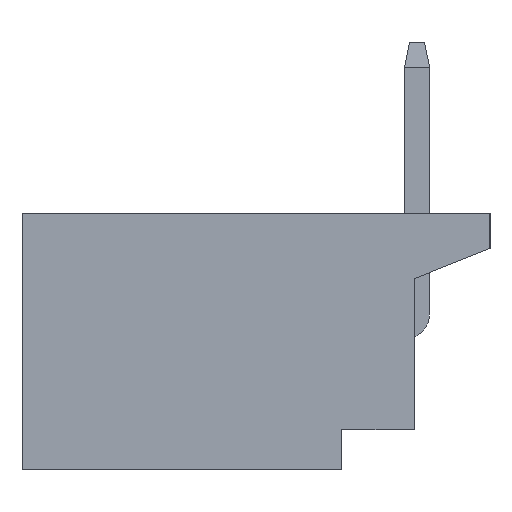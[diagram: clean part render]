
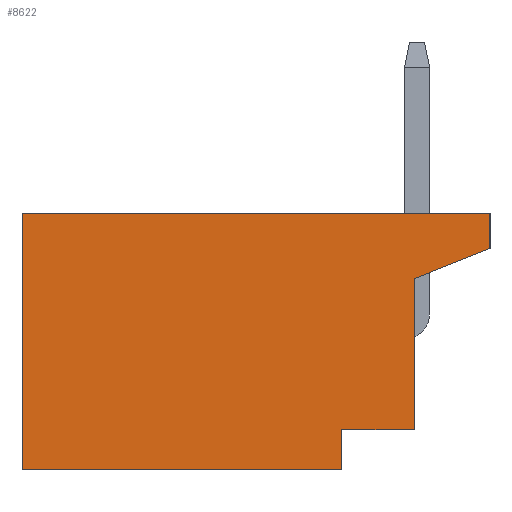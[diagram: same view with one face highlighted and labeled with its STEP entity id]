
A CAD part, left-side view. The second image highlights one B-rep face of the part: STEP entity #8622.
In plain terms, the highlighted planar face has unit normal (-1, 0, 0).
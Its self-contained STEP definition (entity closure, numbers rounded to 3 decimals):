
#101=CARTESIAN_POINT('Vertex',(-17.,-9.3,-0.7)) ;
#104=CARTESIAN_POINT('Line Origine',(-17.,-8.55,-1.)) ;
#108=CARTESIAN_POINT('Vertex',(-17.,-7.8,-1.3)) ;
#387=CARTESIAN_POINT('Line Origine',(-17.,-7.8,-2.8)) ;
#391=CARTESIAN_POINT('Vertex',(-17.,-7.8,-4.3)) ;
#3159=CARTESIAN_POINT('Vertex',(-17.,-6.35,-5.1)) ;
#3162=CARTESIAN_POINT('Line Origine',(-17.,-3.175,-5.1)) ;
#3166=CARTESIAN_POINT('Vertex',(-17.,0.,-5.1)) ;
#3278=CARTESIAN_POINT('Vertex',(-17.,-6.35,-4.3)) ;
#3281=CARTESIAN_POINT('Line Origine',(-17.,-6.35,-4.7)) ;
#8583=CARTESIAN_POINT('Axis2P3D Location',(-17.,0.,0.)) ;
#8588=CARTESIAN_POINT('Line Origine',(-17.,0.,-2.55)) ;
#8592=CARTESIAN_POINT('Vertex',(-17.,0.,0.)) ;
#8595=CARTESIAN_POINT('Line Origine',(-17.,-7.075,-4.3)) ;
#8600=CARTESIAN_POINT('Line Origine',(-17.,-9.3,-0.35)) ;
#8604=CARTESIAN_POINT('Vertex',(-17.,-9.3,0.)) ;
#8607=CARTESIAN_POINT('Line Origine',(-17.,-4.65,0.)) ;
#105=DIRECTION('Vector Direction',(0.,0.928,-0.371)) ;
#388=DIRECTION('Vector Direction',(0.,0.,1.)) ;
#3163=DIRECTION('Vector Direction',(0.,-1.,0.)) ;
#3282=DIRECTION('Vector Direction',(0.,0.,1.)) ;
#8584=DIRECTION('Axis2P3D Direction',(-1.,0.,0.)) ;
#8585=DIRECTION('Axis2P3D XDirection',(-0.,-0.,-1.)) ;
#8589=DIRECTION('Vector Direction',(0.,0.,-1.)) ;
#8596=DIRECTION('Vector Direction',(0.,-1.,0.)) ;
#8601=DIRECTION('Vector Direction',(0.,0.,-1.)) ;
#8608=DIRECTION('Vector Direction',(0.,1.,0.)) ;
#8586=AXIS2_PLACEMENT_3D('Plane Axis2P3D',#8583,#8584,#8585) ;
#8613=ORIENTED_EDGE('',*,*,#8594,.T.) ;
#8614=ORIENTED_EDGE('',*,*,#3168,.T.) ;
#8615=ORIENTED_EDGE('',*,*,#3285,.T.) ;
#8616=ORIENTED_EDGE('',*,*,#8599,.T.) ;
#8617=ORIENTED_EDGE('',*,*,#393,.T.) ;
#8618=ORIENTED_EDGE('',*,*,#110,.F.) ;
#8619=ORIENTED_EDGE('',*,*,#8606,.F.) ;
#8620=ORIENTED_EDGE('',*,*,#8611,.T.) ;
#106=VECTOR('Line Direction',#105,1.) ;
#389=VECTOR('Line Direction',#388,1.) ;
#3164=VECTOR('Line Direction',#3163,1.) ;
#3283=VECTOR('Line Direction',#3282,1.) ;
#8590=VECTOR('Line Direction',#8589,1.) ;
#8597=VECTOR('Line Direction',#8596,1.) ;
#8602=VECTOR('Line Direction',#8601,1.) ;
#8609=VECTOR('Line Direction',#8608,1.) ;
#8622=ADVANCED_FACE('\X2\96F64EF651E04F554F53\X0\',(#8621),#8587,.T.) ;
#110=EDGE_CURVE('',#102,#109,#107,.T.) ;
#393=EDGE_CURVE('',#392,#109,#390,.T.) ;
#3168=EDGE_CURVE('',#3167,#3160,#3165,.T.) ;
#3285=EDGE_CURVE('',#3160,#3279,#3284,.T.) ;
#8594=EDGE_CURVE('',#8593,#3167,#8591,.T.) ;
#8599=EDGE_CURVE('',#3279,#392,#8598,.T.) ;
#8606=EDGE_CURVE('',#8605,#102,#8603,.T.) ;
#8611=EDGE_CURVE('',#8605,#8593,#8610,.T.) ;
#8612=EDGE_LOOP('',(#8613,#8614,#8615,#8616,#8617,#8618,#8619,#8620)) ;
#8621=FACE_OUTER_BOUND('',#8612,.T.) ;
#107=LINE('Line',#104,#106) ;
#390=LINE('Line',#387,#389) ;
#3165=LINE('Line',#3162,#3164) ;
#3284=LINE('Line',#3281,#3283) ;
#8591=LINE('Line',#8588,#8590) ;
#8598=LINE('Line',#8595,#8597) ;
#8603=LINE('Line',#8600,#8602) ;
#8610=LINE('Line',#8607,#8609) ;
#8587=PLANE('Plane',#8586) ;
#102=VERTEX_POINT('',#101) ;
#109=VERTEX_POINT('',#108) ;
#392=VERTEX_POINT('',#391) ;
#3160=VERTEX_POINT('',#3159) ;
#3167=VERTEX_POINT('',#3166) ;
#3279=VERTEX_POINT('',#3278) ;
#8593=VERTEX_POINT('',#8592) ;
#8605=VERTEX_POINT('',#8604) ;
